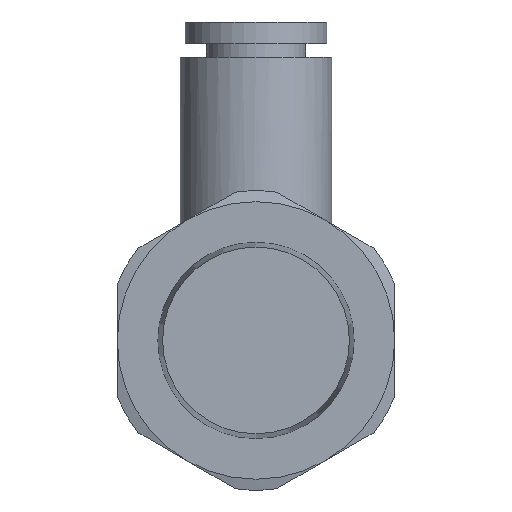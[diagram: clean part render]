
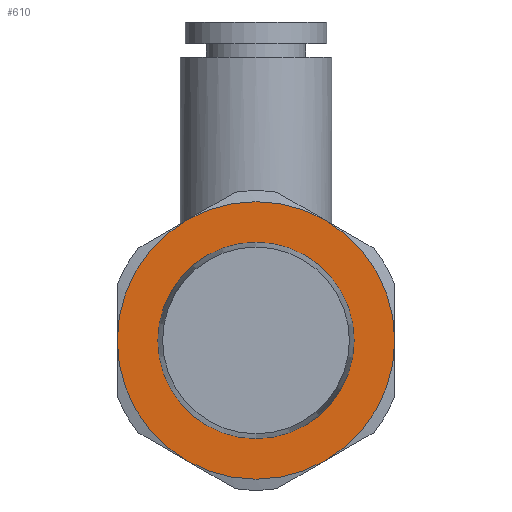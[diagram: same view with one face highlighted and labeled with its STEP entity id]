
A CAD part, front view. The second image highlights one B-rep face of the part: STEP entity #610.
In plain terms, the highlighted planar face has unit normal (0, -1, 0).
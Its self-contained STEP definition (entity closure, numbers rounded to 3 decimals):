
#59=PLANE('',#707);
#108=CIRCLE('',#696,6.719);
#109=CIRCLE('',#698,9.5);
#110=CIRCLE('',#700,9.5);
#111=CIRCLE('',#702,9.5);
#112=CIRCLE('',#704,9.5);
#113=CIRCLE('',#706,9.5);
#114=CIRCLE('',#708,9.5);
#262=ORIENTED_EDGE('',*,*,#345,.F.);
#263=ORIENTED_EDGE('',*,*,#346,.T.);
#264=ORIENTED_EDGE('',*,*,#350,.T.);
#265=ORIENTED_EDGE('',*,*,#349,.T.);
#266=ORIENTED_EDGE('',*,*,#351,.T.);
#267=ORIENTED_EDGE('',*,*,#348,.T.);
#268=ORIENTED_EDGE('',*,*,#347,.T.);
#345=EDGE_CURVE('',#405,#405,#108,.T.);
#346=EDGE_CURVE('',#400,#401,#109,.T.);
#347=EDGE_CURVE('',#399,#400,#110,.T.);
#348=EDGE_CURVE('',#398,#399,#111,.T.);
#349=EDGE_CURVE('',#402,#403,#112,.T.);
#350=EDGE_CURVE('',#401,#402,#113,.T.);
#351=EDGE_CURVE('',#403,#398,#114,.T.);
#398=VERTEX_POINT('',#1094);
#399=VERTEX_POINT('',#1104);
#400=VERTEX_POINT('',#1114);
#401=VERTEX_POINT('',#1124);
#402=VERTEX_POINT('',#1134);
#403=VERTEX_POINT('',#1144);
#405=VERTEX_POINT('',#1154);
#490=EDGE_LOOP('',(#262));
#491=EDGE_LOOP('',(#263,#264,#265,#266,#267,#268));
#551=FACE_BOUND('',#490,.T.);
#552=FACE_BOUND('',#491,.T.);
#610=ADVANCED_FACE('',(#551,#552),#59,.F.);
#696=AXIS2_PLACEMENT_3D('',#1153,#866,#867);
#698=AXIS2_PLACEMENT_3D('',#1156,#870,#871);
#700=AXIS2_PLACEMENT_3D('',#1158,#874,#875);
#702=AXIS2_PLACEMENT_3D('',#1160,#878,#879);
#704=AXIS2_PLACEMENT_3D('',#1162,#882,#883);
#706=AXIS2_PLACEMENT_3D('',#1164,#886,#887);
#707=AXIS2_PLACEMENT_3D('',#1165,#888,#889);
#708=AXIS2_PLACEMENT_3D('',#1166,#890,#891);
#866=DIRECTION('',(0.,-1.,0.));
#867=DIRECTION('',(0.,0.,-1.));
#870=DIRECTION('',(0.,-1.,0.));
#871=DIRECTION('',(0.,0.,-1.));
#874=DIRECTION('',(0.,-1.,0.));
#875=DIRECTION('',(0.,0.,-1.));
#878=DIRECTION('',(0.,-1.,0.));
#879=DIRECTION('',(0.,0.,-1.));
#882=DIRECTION('',(0.,-1.,0.));
#883=DIRECTION('',(0.,0.,-1.));
#886=DIRECTION('',(0.,-1.,0.));
#887=DIRECTION('',(0.,0.,-1.));
#888=DIRECTION('',(0.,1.,0.));
#889=DIRECTION('',(0.,0.,1.));
#890=DIRECTION('',(0.,-1.,0.));
#891=DIRECTION('',(0.,0.,-1.));
#1094=CARTESIAN_POINT('',(-9.5,5.,0.));
#1104=CARTESIAN_POINT('',(-4.75,5.,-8.227));
#1114=CARTESIAN_POINT('',(4.75,5.,-8.227));
#1124=CARTESIAN_POINT('',(9.5,5.,0.));
#1134=CARTESIAN_POINT('',(4.75,5.,8.227));
#1144=CARTESIAN_POINT('',(-4.75,5.,8.227));
#1153=CARTESIAN_POINT('',(0.,5.,0.));
#1154=CARTESIAN_POINT('',(0.,5.,-6.719));
#1156=CARTESIAN_POINT('',(0.,5.,0.));
#1158=CARTESIAN_POINT('',(0.,5.,0.));
#1160=CARTESIAN_POINT('',(0.,5.,0.));
#1162=CARTESIAN_POINT('',(0.,5.,0.));
#1164=CARTESIAN_POINT('',(0.,5.,0.));
#1165=CARTESIAN_POINT('',(9.5,5.,0.));
#1166=CARTESIAN_POINT('',(0.,5.,0.));
